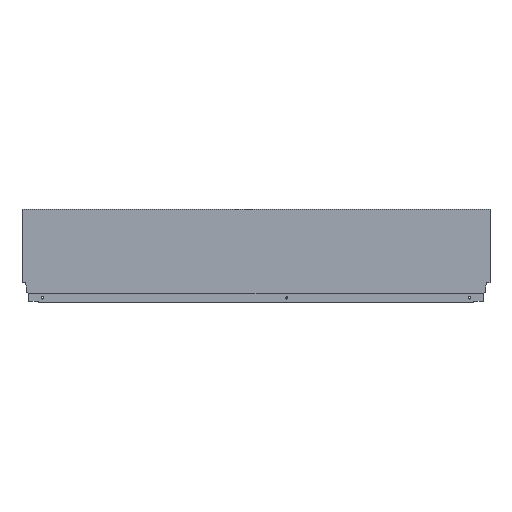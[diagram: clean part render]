
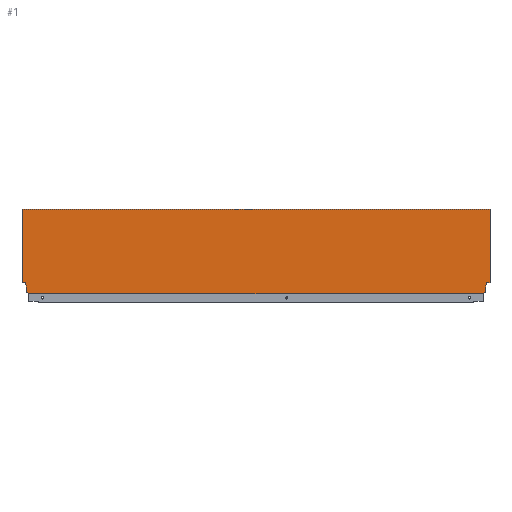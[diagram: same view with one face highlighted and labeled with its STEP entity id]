
A CAD part, top view. The second image highlights one B-rep face of the part: STEP entity #1.
In plain terms, the highlighted planar face has unit normal (0, 0, 1).
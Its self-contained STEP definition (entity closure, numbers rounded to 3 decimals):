
#1 = ADVANCED_FACE ( 'NONE', ( #373 ), #1390, .T. ) ;
#28 = CARTESIAN_POINT ( 'NONE',  ( -8.9, 10.765, 7.5 ) ) ;
#29 = CARTESIAN_POINT ( 'NONE',  ( -899.996, 0., 7.5 ) ) ;
#65 = CARTESIAN_POINT ( 'NONE',  ( -905.94, 21.2, 7.5 ) ) ;
#69 = CARTESIAN_POINT ( 'NONE',  ( -13.004, 1.146, 7.5 ) ) ;
#72 = CARTESIAN_POINT ( 'NONE',  ( -904.1, 10.765, 7.5 ) ) ;
#132 = VERTEX_POINT ( 'NONE', #28 ) ;
#142 = DIRECTION ( 'NONE',  ( 0., 0., 1. ) ) ;
#143 = DIRECTION ( 'NONE',  ( 1., 0., 0. ) ) ;
#167 = VERTEX_POINT ( 'NONE', #72 ) ;
#168 = VERTEX_POINT ( 'NONE', #69 ) ;
#207 = VERTEX_POINT ( 'NONE', #65 ) ;
#224 = VERTEX_POINT ( 'NONE', #29 ) ;
#236 = VERTEX_POINT ( 'NONE', #751 ) ;
#373 = FACE_OUTER_BOUND ( 'NONE', #409, .T. ) ;
#409 = EDGE_LOOP ( 'NONE', ( #414, #444, #445, #446, #447, #448, #449, #456, #450, #451, #452, #453, #454, #457 ) ) ;
#414 = ORIENTED_EDGE ( 'NONE', *, *, #1220, .T. ) ;
#444 = ORIENTED_EDGE ( 'NONE', *, *, #1219, .F. ) ;
#445 = ORIENTED_EDGE ( 'NONE', *, *, #1218, .F. ) ;
#446 = ORIENTED_EDGE ( 'NONE', *, *, #1221, .F. ) ;
#447 = ORIENTED_EDGE ( 'NONE', *, *, #1222, .F. ) ;
#448 = ORIENTED_EDGE ( 'NONE', *, *, #1223, .F. ) ;
#449 = ORIENTED_EDGE ( 'NONE', *, *, #1217, .T. ) ;
#450 = ORIENTED_EDGE ( 'NONE', *, *, #1227, .F. ) ;
#451 = ORIENTED_EDGE ( 'NONE', *, *, #1224, .F. ) ;
#452 = ORIENTED_EDGE ( 'NONE', *, *, #1226, .F. ) ;
#453 = ORIENTED_EDGE ( 'NONE', *, *, #1228, .F. ) ;
#454 = ORIENTED_EDGE ( 'NONE', *, *, #1229, .F. ) ;
#456 = ORIENTED_EDGE ( 'NONE', *, *, #1225, .F. ) ;
#457 = ORIENTED_EDGE ( 'NONE', *, *, #1230, .F. ) ;
#751 = CARTESIAN_POINT ( 'NONE',  ( -904.1, 2.64, 7.5 ) ) ;
#822 = CARTESIAN_POINT ( 'NONE',  ( 0., 0., 7.5 ) ) ;
#827 = DIRECTION ( 'NONE',  ( -1., 0., 0. ) ) ;
#829 = DIRECTION ( 'NONE',  ( 1., 0., 0. ) ) ;
#831 = DIRECTION ( 'NONE',  ( 0., -1., 0. ) ) ;
#832 = CARTESIAN_POINT ( 'NONE',  ( -913., 164.7, 7.5 ) ) ;
#843 = VERTEX_POINT ( 'NONE', #900 ) ;
#852 = VERTEX_POINT ( 'NONE', #912 ) ;
#854 = VERTEX_POINT ( 'NONE', #909 ) ;
#857 = VERTEX_POINT ( 'NONE', #905 ) ;
#859 = VERTEX_POINT ( 'NONE', #902 ) ;
#864 = VERTEX_POINT ( 'NONE', #894 ) ;
#865 = VERTEX_POINT ( 'NONE', #892 ) ;
#869 = DIRECTION ( 'NONE',  ( -0.94, -0.342, 0. ) ) ;
#870 = CARTESIAN_POINT ( 'NONE',  ( -899.996, 1.146, 7.5 ) ) ;
#872 = CARTESIAN_POINT ( 'NONE',  ( 0., 21.2, 7.5 ) ) ;
#873 = DIRECTION ( 'NONE',  ( 0., 1., 0. ) ) ;
#874 = DIRECTION ( 'NONE',  ( -0.174, -0.985, 0. ) ) ;
#875 = CARTESIAN_POINT ( 'NONE',  ( -7.06, 21.2, 7.5 ) ) ;
#876 = CARTESIAN_POINT ( 'NONE',  ( -904.1, 10.765, 7.5 ) ) ;
#877 = DIRECTION ( 'NONE',  ( 0., -1., 0. ) ) ;
#878 = CARTESIAN_POINT ( 'NONE',  ( -8.9, 2.64, 7.5 ) ) ;
#879 = DIRECTION ( 'NONE',  ( 0., -1., 0. ) ) ;
#880 = CARTESIAN_POINT ( 'NONE',  ( -8.9, 10.765, 7.5 ) ) ;
#881 = DIRECTION ( 'NONE',  ( 0., -1., 0. ) ) ;
#882 = DIRECTION ( 'NONE',  ( 0., 1., 0. ) ) ;
#883 = CARTESIAN_POINT ( 'NONE',  ( -904.1, 2.64, 7.5 ) ) ;
#884 = CARTESIAN_POINT ( 'NONE',  ( -13.004, 1.146, 7.5 ) ) ;
#885 = DIRECTION ( 'NONE',  ( -0.94, 0.342, 0. ) ) ;
#886 = DIRECTION ( 'NONE',  ( -1., 0., 0. ) ) ;
#892 = CARTESIAN_POINT ( 'NONE',  ( -899.996, 1.146, 7.5 ) ) ;
#894 = CARTESIAN_POINT ( 'NONE',  ( 0., 21.2, 7.5 ) ) ;
#900 = CARTESIAN_POINT ( 'NONE',  ( -13.004, 0., 7.5 ) ) ;
#902 = CARTESIAN_POINT ( 'NONE',  ( -913., 164.7, 7.5 ) ) ;
#905 = CARTESIAN_POINT ( 'NONE',  ( -8.9, 2.64, 7.5 ) ) ;
#909 = CARTESIAN_POINT ( 'NONE',  ( 0., 164.7, 7.5 ) ) ;
#912 = CARTESIAN_POINT ( 'NONE',  ( -913., 21.2, 7.5 ) ) ;
#918 = CARTESIAN_POINT ( 'NONE',  ( -913., 0., 7.5 ) ) ;
#922 = DIRECTION ( 'NONE',  ( -0.174, 0.985, 0. ) ) ;
#923 = CARTESIAN_POINT ( 'NONE',  ( -918., 21.2, 7.5 ) ) ;
#924 = DIRECTION ( 'NONE',  ( 1., 0., 0. ) ) ;
#925 = CARTESIAN_POINT ( 'NONE',  ( -905.94, 21.2, 7.5 ) ) ;
#928 = CARTESIAN_POINT ( 'NONE',  ( -913., 0., 7.5 ) ) ;
#969 = LINE ( 'NONE', #928, #974 ) ;
#971 = LINE ( 'NONE', #925, #976 ) ;
#973 = LINE ( 'NONE', #923, #978 ) ;
#974 = VECTOR ( 'NONE', #924, 1000. ) ;
#975 = LINE ( 'NONE', #918, #980 ) ;
#976 = VECTOR ( 'NONE', #922, 1000. ) ;
#977 = LINE ( 'NONE', #883, #984 ) ;
#978 = VECTOR ( 'NONE', #886, 1000. ) ;
#979 = LINE ( 'NONE', #870, #986 ) ;
#980 = VECTOR ( 'NONE', #881, 1000. ) ;
#981 = LINE ( 'NONE', #884, #990 ) ;
#982 = LINE ( 'NONE', #876, #983 ) ;
#983 = VECTOR ( 'NONE', #873, 1000. ) ;
#984 = VECTOR ( 'NONE', #885, 1000. ) ;
#985 = LINE ( 'NONE', #878, #994 ) ;
#986 = VECTOR ( 'NONE', #882, 1000. ) ;
#987 = LINE ( 'NONE', #872, #996 ) ;
#988 = LINE ( 'NONE', #880, #989 ) ;
#989 = VECTOR ( 'NONE', #879, 1000. ) ;
#990 = VECTOR ( 'NONE', #877, 1000. ) ;
#991 = LINE ( 'NONE', #822, #998 ) ;
#992 = LINE ( 'NONE', #875, #993 ) ;
#993 = VECTOR ( 'NONE', #874, 1000. ) ;
#994 = VECTOR ( 'NONE', #869, 1000. ) ;
#995 = LINE ( 'NONE', #832, #1000 ) ;
#996 = VECTOR ( 'NONE', #827, 1000. ) ;
#998 = VECTOR ( 'NONE', #831, 1000. ) ;
#1000 = VECTOR ( 'NONE', #829, 1000. ) ;
#1217 = EDGE_CURVE ( 'NONE', #224, #843, #969, .T. ) ;
#1218 = EDGE_CURVE ( 'NONE', #167, #207, #971, .T. ) ;
#1219 = EDGE_CURVE ( 'NONE', #207, #852, #973, .T. ) ;
#1220 = EDGE_CURVE ( 'NONE', #859, #852, #975, .T. ) ;
#1221 = EDGE_CURVE ( 'NONE', #236, #167, #982, .T. ) ;
#1222 = EDGE_CURVE ( 'NONE', #865, #236, #977, .T. ) ;
#1223 = EDGE_CURVE ( 'NONE', #224, #865, #979, .T. ) ;
#1224 = EDGE_CURVE ( 'NONE', #132, #857, #988, .T. ) ;
#1225 = EDGE_CURVE ( 'NONE', #168, #843, #981, .T. ) ;
#1226 = EDGE_CURVE ( 'NONE', #1388, #132, #992, .T. ) ;
#1227 = EDGE_CURVE ( 'NONE', #857, #168, #985, .T. ) ;
#1228 = EDGE_CURVE ( 'NONE', #864, #1388, #987, .T. ) ;
#1229 = EDGE_CURVE ( 'NONE', #854, #864, #991, .T. ) ;
#1230 = EDGE_CURVE ( 'NONE', #859, #854, #995, .T. ) ;
#1326 = AXIS2_PLACEMENT_3D ( 'NONE', #1389, #142, #143 ) ;
#1388 = VERTEX_POINT ( 'NONE', #1510 ) ;
#1389 = CARTESIAN_POINT ( 'NONE',  ( -913., 0., 7.5 ) ) ;
#1390 = PLANE ( 'NONE',  #1326 ) ;
#1510 = CARTESIAN_POINT ( 'NONE',  ( -7.06, 21.2, 7.5 ) ) ;
